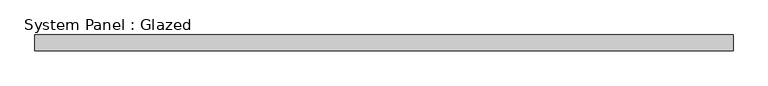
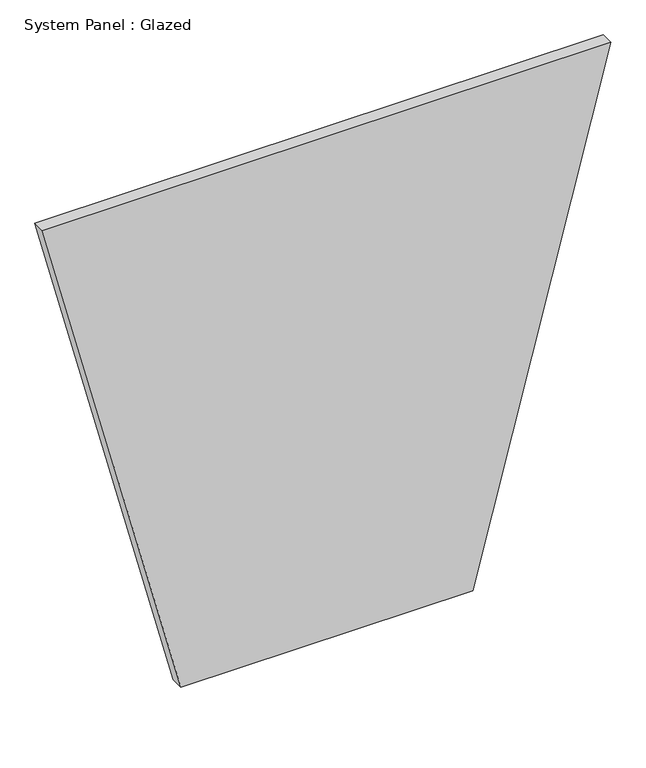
"""IFC4 building model written with IfcOpenShell, lengths in millimetres: plate geometry, System Panel : Glazed."""

from ifc_helpers import new_model, si_unit, frame, origin, place, context, project, spatial, polyline, outline, extrude, source, transform, mapped, element, save


def system_panel_glazed_1f9012bf(model_context):
    return source(origin(), model_context, "Body", "SweptSolid", [
        extrude(outline(polyline([(0.0, -283.4148029), (0.0, 283.4148029), (1032.3374762, 552.3786949), (1032.3374762, -552.3786949), (0.0, -283.4148029)])), frame((0.0, -44.45, 0.0), z_axis=(0.0, 1.0, 0.0), x_axis=(0.0, 0.0, 1.0)), (0.0, 0.0, 1.0), 25.4),
    ])


if __name__ == "__main__":
    model = new_model("IFC4")
    model_context = context("Model", 3, world=origin())
    ifc_project = project(units=[si_unit("LENGTHUNIT", "METRE", prefix="MILLI")], contexts=[model_context])
    site = spatial("IfcSite", under=ifc_project)
    building = spatial("IfcBuilding", under=site)
    placement = place(None, origin())
    system_panel_glazed_shape = system_panel_glazed_1f9012bf(model_context)
    element("IfcPlate", 1, ObjectType="System Panel : Glazed", at=placement, inside=building, context=model_context, shape_type="MappedRepresentation", body=[
        mapped(system_panel_glazed_shape, transform((0.0, 0.0, 0.0), x_axis=(1.0, 0.0, 0.0), y_axis=(0.0, 1.0, 0.0), z_axis=(0.0, 0.0, 1.0))),
    ])
    save(model, "model.ifc")
